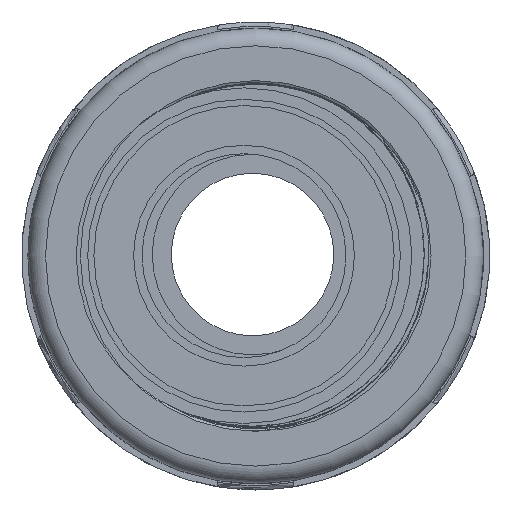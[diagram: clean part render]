
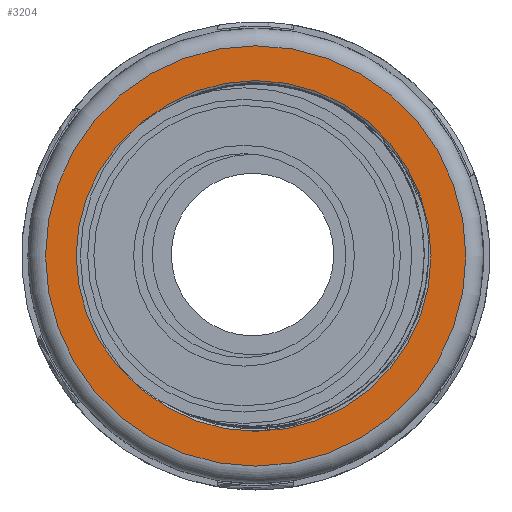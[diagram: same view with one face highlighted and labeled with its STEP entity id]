
A CAD part, left-side view. The second image highlights one B-rep face of the part: STEP entity #3204.
In plain terms, the highlighted planar face has unit normal (-1, 0, 0).
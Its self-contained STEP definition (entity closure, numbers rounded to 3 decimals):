
#800=PLANE('',#3574);
#837=FACE_BOUND('',#1267,.T.);
#1042=FACE_OUTER_BOUND('',#1266,.T.);
#1266=EDGE_LOOP('',(#2858));
#1267=EDGE_LOOP('',(#2859));
#1397=CIRCLE('',#3573,23.8);
#1398=CIRCLE('',#3575,19.855);
#1683=VERTEX_POINT('',#14088);
#1684=VERTEX_POINT('',#14091);
#2106=EDGE_CURVE('',#1683,#1683,#1397,.T.);
#2107=EDGE_CURVE('',#1684,#1684,#1398,.T.);
#2858=ORIENTED_EDGE('',*,*,#2106,.F.);
#2859=ORIENTED_EDGE('',*,*,#2107,.T.);
#3204=ADVANCED_FACE('',(#1042,#837),#800,.T.);
#3573=AXIS2_PLACEMENT_3D('',#14089,#4375,#4376);
#3574=AXIS2_PLACEMENT_3D('',#14090,#4377,#4378);
#3575=AXIS2_PLACEMENT_3D('',#14092,#4379,#4380);
#4375=DIRECTION('center_axis',(1.,0.,0.));
#4376=DIRECTION('ref_axis',(0.,-1.,0.));
#4377=DIRECTION('center_axis',(-1.,0.,0.));
#4378=DIRECTION('ref_axis',(0.,0.,1.));
#4379=DIRECTION('center_axis',(1.,0.,0.));
#4380=DIRECTION('ref_axis',(0.,0.,-1.));
#14088=CARTESIAN_POINT('',(5.222,23.8,0.));
#14089=CARTESIAN_POINT('Origin',(5.222,0.,0.));
#14090=CARTESIAN_POINT('Origin',(5.222,25.8,0.));
#14091=CARTESIAN_POINT('',(5.222,19.855,0.));
#14092=CARTESIAN_POINT('Origin',(5.222,0.,0.));
